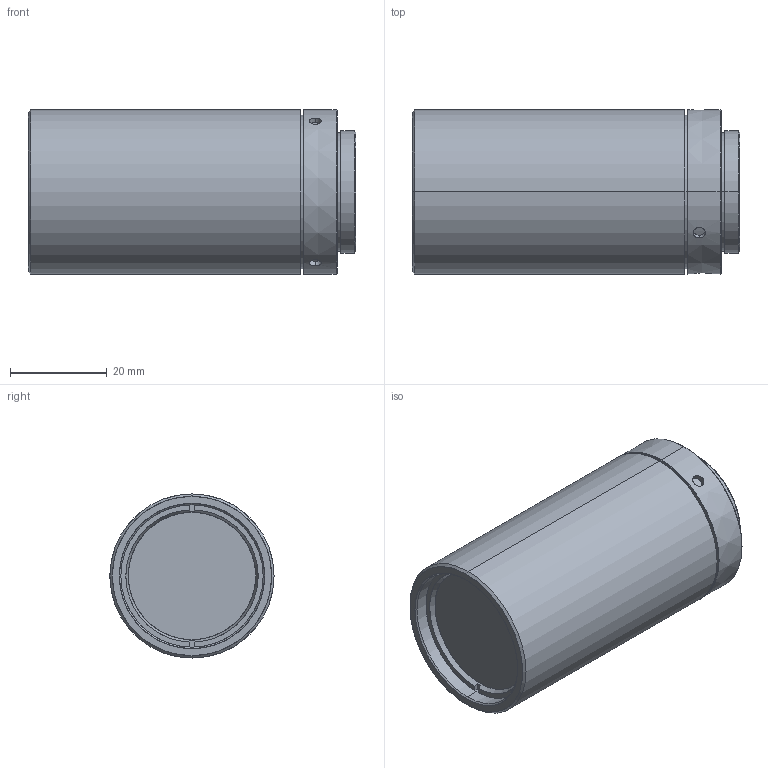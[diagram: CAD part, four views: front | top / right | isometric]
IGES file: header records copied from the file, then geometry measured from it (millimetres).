
Start section: SolidWorks IGES file using analytic representation for surfaces
Global section: file name: E:\liang\嫖悝噩芛\WWT\121-50\WWT121-03-180S\楷諦誧3D\WWT121-033-180S.IGS; native system: SolidWorks 2017; preprocessor: SolidWorks 2017; author: wenru; date: 230427.101014; units: millimetre
Bounding box: 67.9 x 34 x 34 mm (x, y, z)
Surface area: 9631 mm2 (no closed solid volume)
Topology: 0 solids, 0 shells, 51 faces, 1188 edges, 1188 vertices
Faces by surface type: revolution 35, bspline 16
